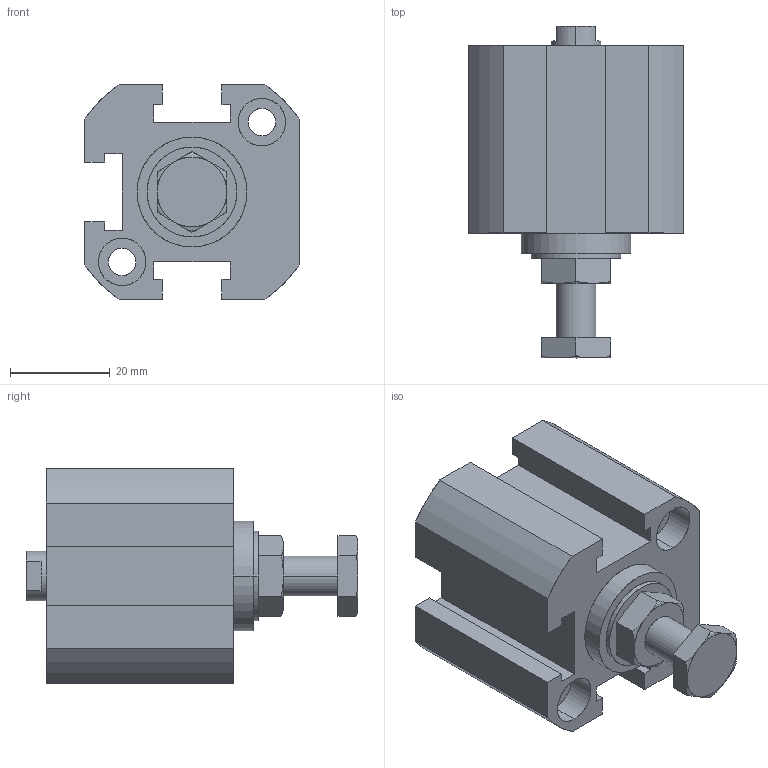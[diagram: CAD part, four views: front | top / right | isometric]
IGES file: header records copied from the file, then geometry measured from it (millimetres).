
Start section: SolidWorks IGES file using analytic representation for surfaces
Global section: file name: C:\Users\Toshiba\Desktop\XGA2-25-10.IGS; native system: SolidWorks 2014; preprocessor: SolidWorks 2014; author: Toshiba; date: 160524.103959; units: millimetre
Bounding box: 43 x 66.5 x 43 mm (x, y, z)
Surface area: 15719.3 mm2 (no closed solid volume)
Topology: 0 solids, 0 shells, 128 faces, 1966 edges, 1960 vertices
Faces by surface type: bspline 74, revolution 54
